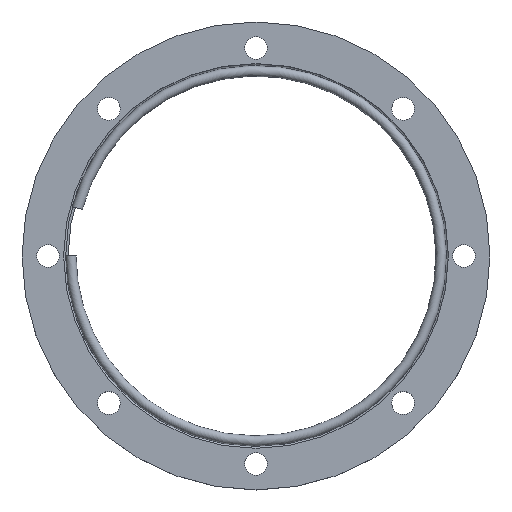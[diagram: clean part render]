
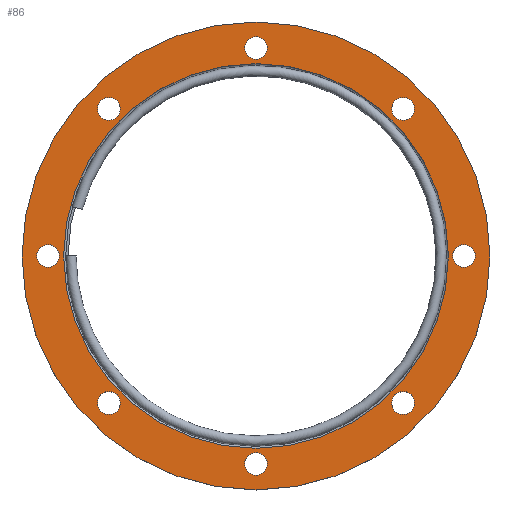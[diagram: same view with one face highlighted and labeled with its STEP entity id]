
A CAD part, top view. The second image highlights one B-rep face of the part: STEP entity #86.
In plain terms, the highlighted planar face has unit normal (0, 0, 1).
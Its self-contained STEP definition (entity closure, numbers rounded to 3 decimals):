
#86 = ADVANCED_FACE( '', ( #160, #161, #162, #163, #164, #165, #166, #167, #168, #169 ), #170, .T. );
#160 = FACE_OUTER_BOUND( '', #260, .T. );
#161 = FACE_BOUND( '', #261, .T. );
#162 = FACE_BOUND( '', #262, .T. );
#163 = FACE_BOUND( '', #263, .T. );
#164 = FACE_BOUND( '', #264, .T. );
#165 = FACE_BOUND( '', #265, .T. );
#166 = FACE_BOUND( '', #266, .T. );
#167 = FACE_BOUND( '', #267, .T. );
#168 = FACE_BOUND( '', #268, .T. );
#169 = FACE_BOUND( '', #269, .T. );
#170 = PLANE( '', #270 );
#260 = EDGE_LOOP( '', ( #350 ) );
#261 = EDGE_LOOP( '', ( #351 ) );
#262 = EDGE_LOOP( '', ( #352 ) );
#263 = EDGE_LOOP( '', ( #353 ) );
#264 = EDGE_LOOP( '', ( #354 ) );
#265 = EDGE_LOOP( '', ( #355 ) );
#266 = EDGE_LOOP( '', ( #356 ) );
#267 = EDGE_LOOP( '', ( #357 ) );
#268 = EDGE_LOOP( '', ( #358 ) );
#269 = EDGE_LOOP( '', ( #359 ) );
#270 = AXIS2_PLACEMENT_3D( '', #360, #361, #362 );
#350 = ORIENTED_EDGE( '', *, *, #468, .F. );
#351 = ORIENTED_EDGE( '', *, *, #470, .F. );
#352 = ORIENTED_EDGE( '', *, *, #471, .F. );
#353 = ORIENTED_EDGE( '', *, *, #472, .F. );
#354 = ORIENTED_EDGE( '', *, *, #473, .F. );
#355 = ORIENTED_EDGE( '', *, *, #474, .F. );
#356 = ORIENTED_EDGE( '', *, *, #475, .F. );
#357 = ORIENTED_EDGE( '', *, *, #476, .F. );
#358 = ORIENTED_EDGE( '', *, *, #477, .F. );
#359 = ORIENTED_EDGE( '', *, *, #478, .T. );
#360 = CARTESIAN_POINT( '', ( -92.5, 0., 16. ) );
#361 = DIRECTION( '', ( 0., 0., 1. ) );
#362 = DIRECTION( '', ( 1., 0., 0. ) );
#468 = EDGE_CURVE( '', #512, #512, #513, .T. );
#470 = EDGE_CURVE( '', #515, #515, #516, .T. );
#471 = EDGE_CURVE( '', #517, #517, #518, .T. );
#472 = EDGE_CURVE( '', #519, #519, #520, .T. );
#473 = EDGE_CURVE( '', #521, #521, #522, .T. );
#474 = EDGE_CURVE( '', #523, #523, #524, .T. );
#475 = EDGE_CURVE( '', #525, #525, #526, .T. );
#476 = EDGE_CURVE( '', #527, #527, #528, .T. );
#477 = EDGE_CURVE( '', #529, #529, #530, .T. );
#478 = EDGE_CURVE( '', #531, #531, #532, .T. );
#512 = VERTEX_POINT( '', #580 );
#513 = CIRCLE( '', #581, 112.5 );
#515 = VERTEX_POINT( '', #583 );
#516 = CIRCLE( '', #584, 5.5 );
#517 = VERTEX_POINT( '', #585 );
#518 = CIRCLE( '', #586, 5.5 );
#519 = VERTEX_POINT( '', #587 );
#520 = CIRCLE( '', #588, 5.5 );
#521 = VERTEX_POINT( '', #589 );
#522 = CIRCLE( '', #590, 5.5 );
#523 = VERTEX_POINT( '', #591 );
#524 = CIRCLE( '', #592, 5.5 );
#525 = VERTEX_POINT( '', #593 );
#526 = CIRCLE( '', #594, 5.5 );
#527 = VERTEX_POINT( '', #595 );
#528 = CIRCLE( '', #596, 5.5 );
#529 = VERTEX_POINT( '', #597 );
#530 = CIRCLE( '', #598, 5.5 );
#531 = VERTEX_POINT( '', #599 );
#532 = CIRCLE( '', #600, 92.5 );
#580 = CARTESIAN_POINT( '', ( -112.5, 0., 16. ) );
#581 = AXIS2_PLACEMENT_3D( '', #648, #649, #650 );
#583 = CARTESIAN_POINT( '', ( -66.822, -66.822, 16. ) );
#584 = AXIS2_PLACEMENT_3D( '', #651, #652, #653 );
#585 = CARTESIAN_POINT( '', ( 0., -94.5, 16. ) );
#586 = AXIS2_PLACEMENT_3D( '', #654, #655, #656 );
#587 = CARTESIAN_POINT( '', ( 66.822, -66.822, 16. ) );
#588 = AXIS2_PLACEMENT_3D( '', #657, #658, #659 );
#589 = CARTESIAN_POINT( '', ( 94.5, 0., 16. ) );
#590 = AXIS2_PLACEMENT_3D( '', #660, #661, #662 );
#591 = CARTESIAN_POINT( '', ( 66.822, 66.822, 16. ) );
#592 = AXIS2_PLACEMENT_3D( '', #663, #664, #665 );
#593 = CARTESIAN_POINT( '', ( 0., 94.5, 16. ) );
#594 = AXIS2_PLACEMENT_3D( '', #666, #667, #668 );
#595 = CARTESIAN_POINT( '', ( -66.822, 66.822, 16. ) );
#596 = AXIS2_PLACEMENT_3D( '', #669, #670, #671 );
#597 = CARTESIAN_POINT( '', ( -94.5, 0., 16. ) );
#598 = AXIS2_PLACEMENT_3D( '', #672, #673, #674 );
#599 = CARTESIAN_POINT( '', ( -92.5, 0., 16. ) );
#600 = AXIS2_PLACEMENT_3D( '', #675, #676, #677 );
#648 = CARTESIAN_POINT( '', ( 0., 0., 16. ) );
#649 = DIRECTION( '', ( 0., 0., -1. ) );
#650 = DIRECTION( '', ( -1., 0., 0. ) );
#651 = CARTESIAN_POINT( '', ( -70.711, -70.711, 16. ) );
#652 = DIRECTION( '', ( 0., 0., 1. ) );
#653 = DIRECTION( '', ( 0.707, 0.707, 0. ) );
#654 = CARTESIAN_POINT( '', ( 0., -100., 16. ) );
#655 = DIRECTION( '', ( 0., 0., 1. ) );
#656 = DIRECTION( '', ( 0., 1., 0. ) );
#657 = CARTESIAN_POINT( '', ( 70.711, -70.711, 16. ) );
#658 = DIRECTION( '', ( 0., 0., 1. ) );
#659 = DIRECTION( '', ( -0.707, 0.707, 0. ) );
#660 = CARTESIAN_POINT( '', ( 100., 0., 16. ) );
#661 = DIRECTION( '', ( 0., 0., 1. ) );
#662 = DIRECTION( '', ( -1., 0., 0. ) );
#663 = CARTESIAN_POINT( '', ( 70.711, 70.711, 16. ) );
#664 = DIRECTION( '', ( 0., 0., 1. ) );
#665 = DIRECTION( '', ( -0.707, -0.707, 0. ) );
#666 = CARTESIAN_POINT( '', ( 0., 100., 16. ) );
#667 = DIRECTION( '', ( 0., 0., 1. ) );
#668 = DIRECTION( '', ( 0., -1., 0. ) );
#669 = CARTESIAN_POINT( '', ( -70.711, 70.711, 16. ) );
#670 = DIRECTION( '', ( 0., 0., 1. ) );
#671 = DIRECTION( '', ( 0.707, -0.707, 0. ) );
#672 = CARTESIAN_POINT( '', ( -100., 0., 16. ) );
#673 = DIRECTION( '', ( 0., 0., 1. ) );
#674 = DIRECTION( '', ( 1., 0., 0. ) );
#675 = CARTESIAN_POINT( '', ( 0., 0., 16. ) );
#676 = DIRECTION( '', ( 0., 0., -1. ) );
#677 = DIRECTION( '', ( -1., 0., 0. ) );
